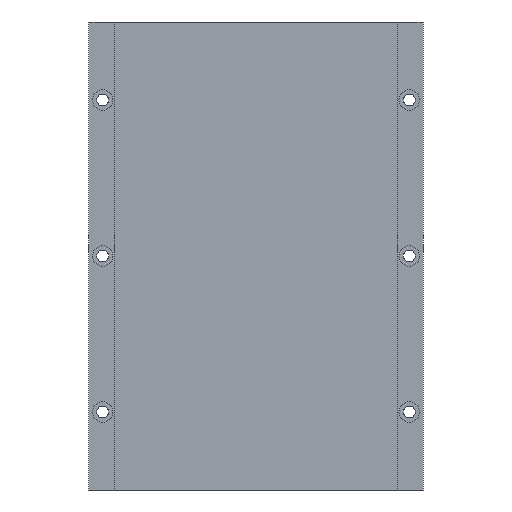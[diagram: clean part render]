
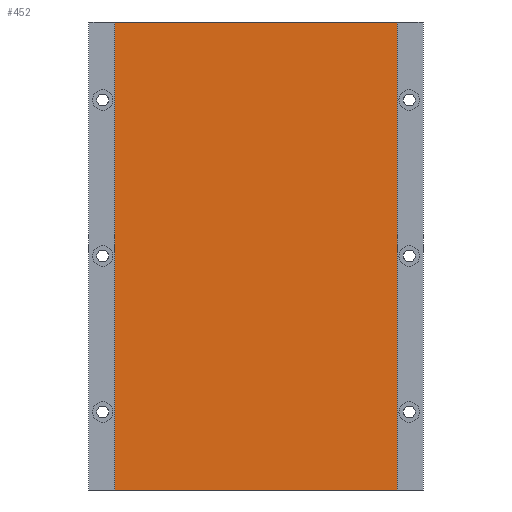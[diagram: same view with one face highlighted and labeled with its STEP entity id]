
A CAD part, left-side view. The second image highlights one B-rep face of the part: STEP entity #452.
In plain terms, the highlighted planar face has unit normal (-1, 0, 0).
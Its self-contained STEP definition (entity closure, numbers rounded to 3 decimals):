
#32 = VECTOR ( 'NONE', #480, 1000. ) ;
#88 = DIRECTION ( 'NONE',  ( 0., 1., 0. ) ) ;
#126 = EDGE_LOOP ( 'NONE', ( #895, #439, #574, #909 ) ) ;
#156 = VERTEX_POINT ( 'NONE', #936 ) ;
#215 = DIRECTION ( 'NONE',  ( 0., 1., 0. ) ) ;
#243 = EDGE_CURVE ( 'NONE', #944, #156, #489, .T. ) ;
#301 = VERTEX_POINT ( 'NONE', #1066 ) ;
#335 = EDGE_CURVE ( 'NONE', #1098, #301, #669, .T. ) ;
#413 = CARTESIAN_POINT ( 'NONE',  ( -7.8, 76.15, 252. ) ) ;
#439 = ORIENTED_EDGE ( 'NONE', *, *, #243, .F. ) ;
#452 = ADVANCED_FACE ( 'NONE', ( #534 ), #598, .T. ) ;
#480 = DIRECTION ( 'NONE',  ( 0., 0., -1. ) ) ;
#489 = LINE ( 'NONE', #490, #32 ) ;
#490 = CARTESIAN_POINT ( 'NONE',  ( -7.8, -76.15, 252. ) ) ;
#517 = DIRECTION ( 'NONE',  ( 0., 0., 1. ) ) ;
#533 = CARTESIAN_POINT ( 'NONE',  ( -7.8, 0., 0. ) ) ;
#534 = FACE_OUTER_BOUND ( 'NONE', #126, .T. ) ;
#574 = ORIENTED_EDGE ( 'NONE', *, *, #981, .T. ) ;
#591 = CARTESIAN_POINT ( 'NONE',  ( -7.8, 76.15, 252. ) ) ;
#598 = PLANE ( 'NONE',  #696 ) ;
#634 = VECTOR ( 'NONE', #886, 1000. ) ;
#669 = LINE ( 'NONE', #591, #634 ) ;
#695 = VECTOR ( 'NONE', #215, 1000. ) ;
#696 = AXIS2_PLACEMENT_3D ( 'NONE', #699, #1102, #517 ) ;
#699 = CARTESIAN_POINT ( 'NONE',  ( -7.8, 0., 252. ) ) ;
#790 = LINE ( 'NONE', #533, #695 ) ;
#886 = DIRECTION ( 'NONE',  ( 0., 0., -1. ) ) ;
#895 = ORIENTED_EDGE ( 'NONE', *, *, #1051, .F. ) ;
#909 = ORIENTED_EDGE ( 'NONE', *, *, #335, .T. ) ;
#936 = CARTESIAN_POINT ( 'NONE',  ( -7.8, -76.15, 0. ) ) ;
#944 = VERTEX_POINT ( 'NONE', #1064 ) ;
#981 = EDGE_CURVE ( 'NONE', #944, #1098, #1196, .T. ) ;
#1031 = VECTOR ( 'NONE', #88, 1000. ) ;
#1051 = EDGE_CURVE ( 'NONE', #156, #301, #790, .T. ) ;
#1064 = CARTESIAN_POINT ( 'NONE',  ( -7.8, -76.15, 252. ) ) ;
#1066 = CARTESIAN_POINT ( 'NONE',  ( -7.8, 76.15, 0. ) ) ;
#1098 = VERTEX_POINT ( 'NONE', #413 ) ;
#1102 = DIRECTION ( 'NONE',  ( -1., 0., 0. ) ) ;
#1196 = LINE ( 'NONE', #1253, #1031 ) ;
#1253 = CARTESIAN_POINT ( 'NONE',  ( -7.8, 0., 252. ) ) ;
